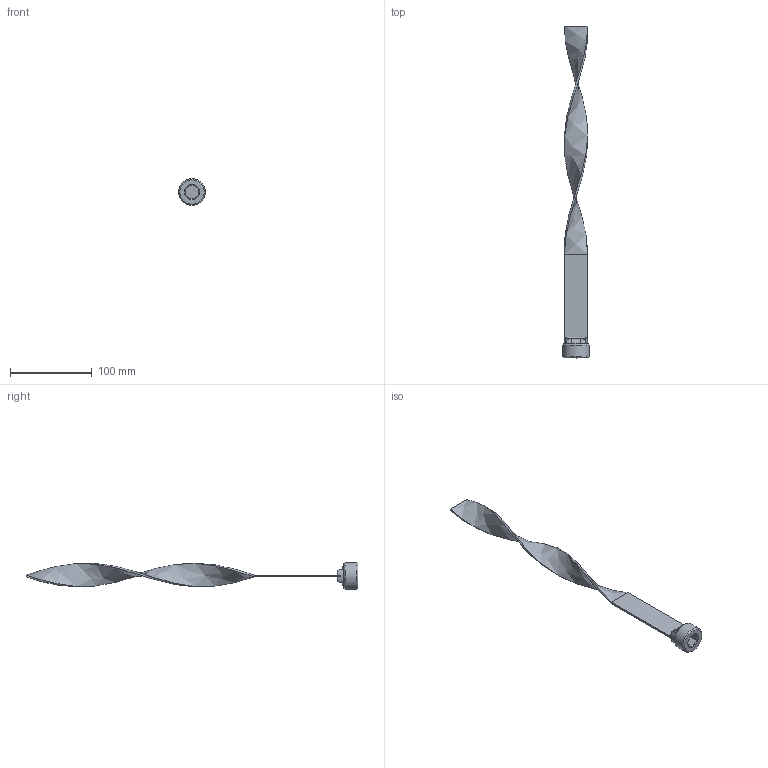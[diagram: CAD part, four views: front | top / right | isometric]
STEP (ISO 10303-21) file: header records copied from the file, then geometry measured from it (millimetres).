
FILE_DESCRIPTION(/* description */ (''),/* implementation_level */ '2;1');
FILE_NAME(/* name */ 'C:/Users/drich/Desktop/TB1X16 BSP v1.step',/* time_stamp */ '2020-01-14T09:23:54-06:00',/* author */ (''),/* organization */ (''),/* preprocessor_version */ 'ST-DEVELOPER v18',/* originating_system */ 'Autodesk Translation Framework v8.12.0.6',/* authorisation */ '');
FILE_SCHEMA (('AUTOMOTIVE_DESIGN { 1 0 10303 214 3 1 1 }'));
Length unit declared in the file: inch
Products named in the file (1): TB1X16 BSP
Bounding box: 33.07 x 406.4 x 33.07 mm (x, y, z)
Volume: 40154 mm3; surface area: 28463.9 mm2
Topology: 2 solids, 2 shells, 48 faces, 122 edges, 80 vertices
Faces by surface type: plane 22, cylinder 8, bspline 8, torus 7, cone 3
Full cylindrical faces by diameter (mm): 28.169 x1, 33.069 x1
Entity records: 2140 total; most frequent: CARTESIAN_POINT 995, ORIENTED_EDGE 244, DIRECTION 209, EDGE_CURVE 122, VERTEX_POINT 80, AXIS2_PLACEMENT_3D 80, EDGE_LOOP 50, LINE 49
